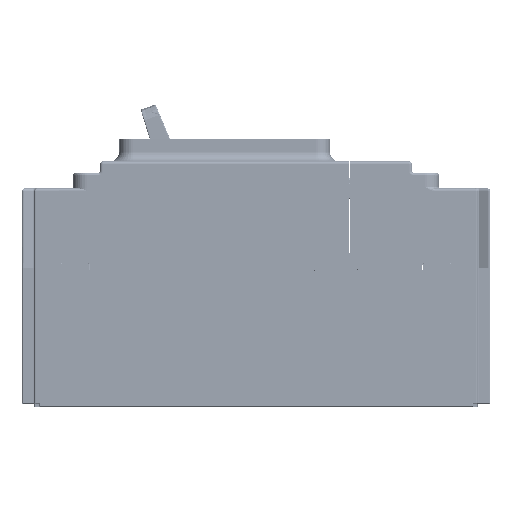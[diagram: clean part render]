
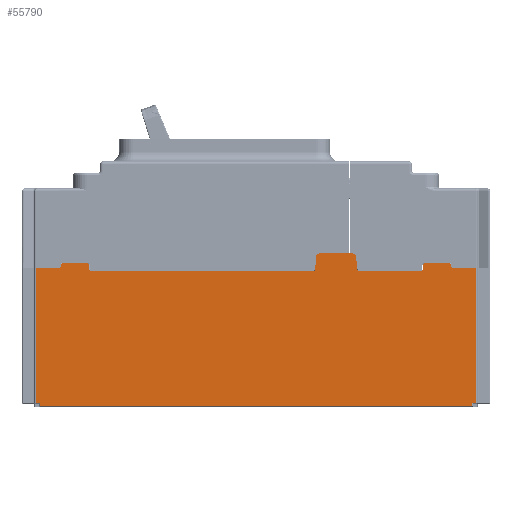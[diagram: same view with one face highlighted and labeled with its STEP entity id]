
A CAD part, top view. The second image highlights one B-rep face of the part: STEP entity #55790.
In plain terms, the highlighted planar face has unit normal (0, 0, 1).
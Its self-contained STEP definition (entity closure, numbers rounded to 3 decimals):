
#660=DIRECTION('',(1.,0.,0.));
#661=VECTOR('',#660,22.7);
#662=CARTESIAN_POINT('',(35.8,0.,52.5));
#663=LINE('',#662,#661);
#688=DIRECTION('',(1.,0.,0.));
#689=VECTOR('',#688,79.3);
#690=CARTESIAN_POINT('',(-58.5,0.,52.5));
#691=LINE('',#690,#689);
#1235=DIRECTION('',(1.,0.,0.));
#1236=VECTOR('',#1235,9.4);
#1237=CARTESIAN_POINT('',(-68.5,2.5,52.5));
#1238=LINE('',#1237,#1236);
#1621=DIRECTION('',(1.,0.,0.));
#1622=VECTOR('',#1621,9.4);
#1623=CARTESIAN_POINT('',(59.1,2.5,52.5));
#1624=LINE('',#1623,#1622);
#10977=DIRECTION('',(-1.,0.,0.));
#10978=VECTOR('',#10977,1.7);
#10979=CARTESIAN_POINT('',(77.7,-46.6,52.5));
#10980=LINE('',#10979,#10978);
#10981=DIRECTION('',(-1.,0.,0.));
#10982=VECTOR('',#10981,152.);
#10983=CARTESIAN_POINT('',(76.,-47.7,52.5));
#10984=LINE('',#10983,#10982);
#10985=DIRECTION('',(1.,0.,0.));
#10986=VECTOR('',#10985,1.7);
#10987=CARTESIAN_POINT('',(-77.7,-46.6,52.5));
#10988=LINE('',#10987,#10986);
#10989=DIRECTION('',(0.,-1.,0.));
#10990=VECTOR('',#10989,47.6);
#10991=CARTESIAN_POINT('',(-77.7,1.,52.5));
#10992=LINE('',#10991,#10990);
#10993=DIRECTION('',(0.,1.,0.));
#10994=VECTOR('',#10993,0.9);
#10995=CARTESIAN_POINT('',(-68.8,1.3,52.5));
#10996=LINE('',#10995,#10994);
#10997=DIRECTION('',(-0.707,-0.707,0.));
#10998=VECTOR('',#10997,0.424);
#10999=CARTESIAN_POINT('',(-68.5,2.5,52.5));
#11000=LINE('',#10999,#10998);
#11001=DIRECTION('',(-0.707,0.707,0.));
#11002=VECTOR('',#11001,0.424);
#11003=CARTESIAN_POINT('',(-58.8,2.2,52.5));
#11004=LINE('',#11003,#11002);
#11005=DIRECTION('',(-0.087,-0.996,0.));
#11006=VECTOR('',#11005,5.107);
#11007=CARTESIAN_POINT('',(21.245,5.087,52.5));
#11008=LINE('',#11007,#11006);
#11009=CARTESIAN_POINT('',(22.241,5.,52.5));
#11010=DIRECTION('',(0.,0.,1.));
#11011=DIRECTION('',(0.,1.,0.));
#11012=AXIS2_PLACEMENT_3D('',#11009,#11010,#11011);
#11014=DIRECTION('',(-1.,0.,0.));
#11015=VECTOR('',#11014,12.028);
#11016=CARTESIAN_POINT('',(34.269,6.,52.5));
#11017=LINE('',#11016,#11015);
#11018=CARTESIAN_POINT('',(34.269,5.,52.5));
#11019=DIRECTION('',(0.,0.,1.));
#11020=DIRECTION('',(0.995,0.105,0.));
#11021=AXIS2_PLACEMENT_3D('',#11018,#11019,#11020);
#11023=DIRECTION('',(-0.105,0.995,0.));
#11024=VECTOR('',#11023,5.133);
#11025=CARTESIAN_POINT('',(35.8,0.,52.5));
#11026=LINE('',#11025,#11024);
#11027=DIRECTION('',(0.,1.,0.));
#11028=VECTOR('',#11027,1.9);
#11029=CARTESIAN_POINT('',(58.8,0.3,52.5));
#11030=LINE('',#11029,#11028);
#11031=DIRECTION('',(-0.707,-0.707,0.));
#11032=VECTOR('',#11031,0.424);
#11033=CARTESIAN_POINT('',(59.1,2.5,52.5));
#11034=LINE('',#11033,#11032);
#11035=DIRECTION('',(-0.707,0.707,0.));
#11036=VECTOR('',#11035,0.424);
#11037=CARTESIAN_POINT('',(68.8,2.2,52.5));
#11038=LINE('',#11037,#11036);
#11039=DIRECTION('',(0.,-1.,0.));
#11040=VECTOR('',#11039,47.6);
#11041=CARTESIAN_POINT('',(77.7,1.,52.5));
#11042=LINE('',#11041,#11040);
#11070=DIRECTION('',(1.,0.,0.));
#11071=VECTOR('',#11070,8.6);
#11072=CARTESIAN_POINT('',(-77.7,1.,52.5));
#11073=LINE('',#11072,#11071);
#11122=DIRECTION('',(1.,0.,0.));
#11123=VECTOR('',#11122,8.6);
#11124=CARTESIAN_POINT('',(69.1,1.,52.5));
#11125=LINE('',#11124,#11123);
#11126=DIRECTION('',(-0.707,-0.707,0.));
#11127=VECTOR('',#11126,0.424);
#11128=CARTESIAN_POINT('',(-68.8,1.3,52.5));
#11129=LINE('',#11128,#11127);
#18020=DIRECTION('',(0.,-1.,0.));
#18021=VECTOR('',#18020,1.1);
#18022=CARTESIAN_POINT('',(-76.,-46.6,52.5));
#18023=LINE('',#18022,#18021);
#18044=DIRECTION('',(0.,1.,0.));
#18045=VECTOR('',#18044,1.1);
#18046=CARTESIAN_POINT('',(76.,-47.7,52.5));
#18047=LINE('',#18046,#18045);
#24010=DIRECTION('',(-0.707,0.707,0.));
#24011=VECTOR('',#24010,0.424);
#24012=CARTESIAN_POINT('',(-58.5,0.,52.5));
#24013=LINE('',#24012,#24011);
#24026=DIRECTION('',(0.,1.,0.));
#24027=VECTOR('',#24026,1.9);
#24028=CARTESIAN_POINT('',(-58.8,0.3,52.5));
#24029=LINE('',#24028,#24027);
#28358=DIRECTION('',(-0.707,0.707,0.));
#28359=VECTOR('',#28358,0.424);
#28360=CARTESIAN_POINT('',(69.1,1.,52.5));
#28361=LINE('',#28360,#28359);
#28370=DIRECTION('',(0.,1.,0.));
#28371=VECTOR('',#28370,0.9);
#28372=CARTESIAN_POINT('',(68.8,1.3,52.5));
#28373=LINE('',#28372,#28371);
#28518=DIRECTION('',(-0.707,-0.707,0.));
#28519=VECTOR('',#28518,0.424);
#28520=CARTESIAN_POINT('',(58.8,0.3,52.5));
#28521=LINE('',#28520,#28519);
#32031=CARTESIAN_POINT('',(20.8,0.,52.5));
#32033=VERTEX_POINT('',#32031);
#32035=CARTESIAN_POINT('',(35.8,0.,52.5));
#32037=VERTEX_POINT('',#32035);
#32049=CARTESIAN_POINT('',(22.241,6.,52.5));
#32050=VERTEX_POINT('',#32049);
#32051=CARTESIAN_POINT('',(21.245,5.087,52.5));
#32052=VERTEX_POINT('',#32051);
#32055=CARTESIAN_POINT('',(35.263,5.105,52.5));
#32056=VERTEX_POINT('',#32055);
#32057=CARTESIAN_POINT('',(34.269,6.,52.5));
#32058=VERTEX_POINT('',#32057);
#32749=CARTESIAN_POINT('',(-68.5,2.5,52.5));
#32750=CARTESIAN_POINT('',(-68.8,2.2,52.5));
#32751=VERTEX_POINT('',#32749);
#32752=VERTEX_POINT('',#32750);
#32773=CARTESIAN_POINT('',(-58.8,2.2,52.5));
#32774=VERTEX_POINT('',#32773);
#32775=CARTESIAN_POINT('',(-59.1,2.5,52.5));
#32776=VERTEX_POINT('',#32775);
#32793=CARTESIAN_POINT('',(68.8,2.2,52.5));
#32794=CARTESIAN_POINT('',(68.5,2.5,52.5));
#32795=VERTEX_POINT('',#32793);
#32796=VERTEX_POINT('',#32794);
#32797=CARTESIAN_POINT('',(59.1,2.5,52.5));
#32798=CARTESIAN_POINT('',(58.8,2.2,52.5));
#32799=VERTEX_POINT('',#32797);
#32800=VERTEX_POINT('',#32798);
#35162=CARTESIAN_POINT('',(-58.8,0.3,52.5));
#35164=VERTEX_POINT('',#35162);
#35167=CARTESIAN_POINT('',(58.8,0.3,52.5));
#35169=VERTEX_POINT('',#35167);
#35170=CARTESIAN_POINT('',(-58.5,0.,52.5));
#35171=VERTEX_POINT('',#35170);
#35172=CARTESIAN_POINT('',(58.5,0.,52.5));
#35173=VERTEX_POINT('',#35172);
#35174=CARTESIAN_POINT('',(69.1,1.,52.5));
#35175=CARTESIAN_POINT('',(68.8,1.3,52.5));
#35176=VERTEX_POINT('',#35174);
#35177=VERTEX_POINT('',#35175);
#35178=CARTESIAN_POINT('',(-68.8,1.3,52.5));
#35179=CARTESIAN_POINT('',(-69.1,1.,52.5));
#35180=VERTEX_POINT('',#35178);
#35181=VERTEX_POINT('',#35179);
#35256=CARTESIAN_POINT('',(-76.,-47.7,52.5));
#35257=VERTEX_POINT('',#35256);
#35262=CARTESIAN_POINT('',(76.,-47.7,52.5));
#35263=VERTEX_POINT('',#35262);
#35456=CARTESIAN_POINT('',(77.7,-46.6,52.5));
#35457=CARTESIAN_POINT('',(76.,-46.6,52.5));
#35458=VERTEX_POINT('',#35456);
#35459=VERTEX_POINT('',#35457);
#35726=CARTESIAN_POINT('',(-77.7,-46.6,52.5));
#35727=CARTESIAN_POINT('',(-76.,-46.6,52.5));
#35728=VERTEX_POINT('',#35726);
#35729=VERTEX_POINT('',#35727);
#35764=CARTESIAN_POINT('',(-77.7,1.,52.5));
#35765=VERTEX_POINT('',#35764);
#37084=CARTESIAN_POINT('',(77.7,1.,52.5));
#37086=VERTEX_POINT('',#37084);
#55728=CARTESIAN_POINT('',(-82.5,0.,52.5));
#55729=DIRECTION('',(0.,0.,1.));
#55730=DIRECTION('',(1.,0.,0.));
#55731=AXIS2_PLACEMENT_3D('',#55728,#55729,#55730);
#55732=PLANE('',#55731);
#55734=ORIENTED_EDGE('',*,*,#55733,.T.);
#55736=ORIENTED_EDGE('',*,*,#55735,.F.);
#55738=ORIENTED_EDGE('',*,*,#55737,.T.);
#55740=ORIENTED_EDGE('',*,*,#55739,.F.);
#55742=ORIENTED_EDGE('',*,*,#55741,.F.);
#55744=ORIENTED_EDGE('',*,*,#55743,.F.);
#55746=ORIENTED_EDGE('',*,*,#55745,.T.);
#55748=ORIENTED_EDGE('',*,*,#55747,.F.);
#55750=ORIENTED_EDGE('',*,*,#55749,.T.);
#55752=ORIENTED_EDGE('',*,*,#55751,.F.);
#55753=ORIENTED_EDGE('',*,*,#41098,.T.);
#55755=ORIENTED_EDGE('',*,*,#55754,.F.);
#55757=ORIENTED_EDGE('',*,*,#55756,.F.);
#55759=ORIENTED_EDGE('',*,*,#55758,.F.);
#55760=ORIENTED_EDGE('',*,*,#40685,.T.);
#55762=ORIENTED_EDGE('',*,*,#55761,.F.);
#55764=ORIENTED_EDGE('',*,*,#55763,.F.);
#55766=ORIENTED_EDGE('',*,*,#55765,.F.);
#55768=ORIENTED_EDGE('',*,*,#55767,.F.);
#55770=ORIENTED_EDGE('',*,*,#55769,.F.);
#55771=ORIENTED_EDGE('',*,*,#40669,.T.);
#55773=ORIENTED_EDGE('',*,*,#55772,.F.);
#55775=ORIENTED_EDGE('',*,*,#55774,.T.);
#55776=ORIENTED_EDGE('',*,*,#55719,.F.);
#55777=ORIENTED_EDGE('',*,*,#41381,.T.);
#55779=ORIENTED_EDGE('',*,*,#55778,.F.);
#55781=ORIENTED_EDGE('',*,*,#55780,.F.);
#55783=ORIENTED_EDGE('',*,*,#55782,.F.);
#55785=ORIENTED_EDGE('',*,*,#55784,.T.);
#55787=ORIENTED_EDGE('',*,*,#55786,.T.);
#55788=EDGE_LOOP('',(#55734,#55736,#55738,#55740,#55742,#55744,#55746,#55748,
#55750,#55752,#55753,#55755,#55757,#55759,#55760,#55762,#55764,#55766,#55768,
#55770,#55771,#55773,#55775,#55776,#55777,#55779,#55781,#55783,#55785,#55787));
#55789=FACE_OUTER_BOUND('',#55788,.F.);
#55790=ADVANCED_FACE('',(#55789),#55732,.T.);
#11013=CIRCLE('',#11012,1.);
#11022=CIRCLE('',#11021,1.);
#40669=EDGE_CURVE('',#32037,#35173,#663,.T.);
#40685=EDGE_CURVE('',#35171,#32033,#691,.T.);
#41098=EDGE_CURVE('',#32751,#32776,#1238,.T.);
#41381=EDGE_CURVE('',#32799,#32796,#1624,.T.);
#55719=EDGE_CURVE('',#32799,#32800,#11034,.T.);
#55733=EDGE_CURVE('',#35458,#35459,#10980,.T.);
#55735=EDGE_CURVE('',#35263,#35459,#18047,.T.);
#55737=EDGE_CURVE('',#35263,#35257,#10984,.T.);
#55739=EDGE_CURVE('',#35729,#35257,#18023,.T.);
#55741=EDGE_CURVE('',#35728,#35729,#10988,.T.);
#55743=EDGE_CURVE('',#35765,#35728,#10992,.T.);
#55745=EDGE_CURVE('',#35765,#35181,#11073,.T.);
#55747=EDGE_CURVE('',#35180,#35181,#11129,.T.);
#55749=EDGE_CURVE('',#35180,#32752,#10996,.T.);
#55751=EDGE_CURVE('',#32751,#32752,#11000,.T.);
#55754=EDGE_CURVE('',#32774,#32776,#11004,.T.);
#55756=EDGE_CURVE('',#35164,#32774,#24029,.T.);
#55758=EDGE_CURVE('',#35171,#35164,#24013,.T.);
#55761=EDGE_CURVE('',#32052,#32033,#11008,.T.);
#55763=EDGE_CURVE('',#32050,#32052,#11013,.T.);
#55765=EDGE_CURVE('',#32058,#32050,#11017,.T.);
#55767=EDGE_CURVE('',#32056,#32058,#11022,.T.);
#55769=EDGE_CURVE('',#32037,#32056,#11026,.T.);
#55772=EDGE_CURVE('',#35169,#35173,#28521,.T.);
#55774=EDGE_CURVE('',#35169,#32800,#11030,.T.);
#55778=EDGE_CURVE('',#32795,#32796,#11038,.T.);
#55780=EDGE_CURVE('',#35177,#32795,#28373,.T.);
#55782=EDGE_CURVE('',#35176,#35177,#28361,.T.);
#55784=EDGE_CURVE('',#35176,#37086,#11125,.T.);
#55786=EDGE_CURVE('',#37086,#35458,#11042,.T.);
